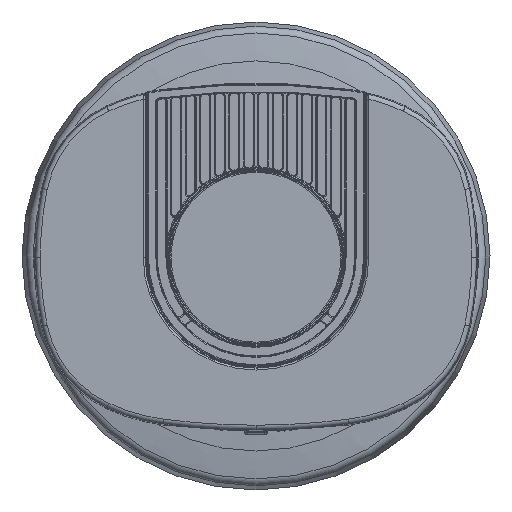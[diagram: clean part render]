
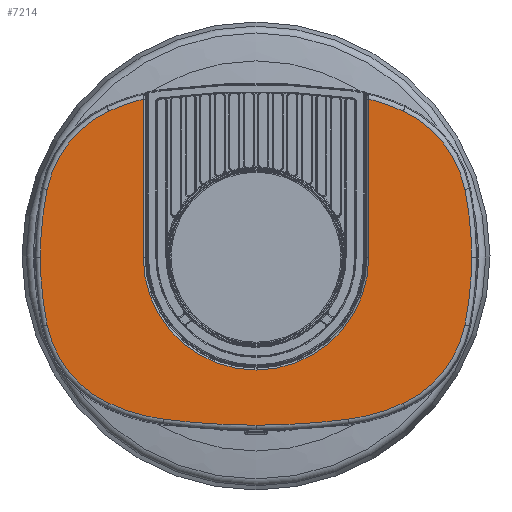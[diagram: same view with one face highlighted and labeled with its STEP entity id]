
A CAD part, top view. The second image highlights one B-rep face of the part: STEP entity #7214.
In plain terms, the highlighted planar face has unit normal (0, 0, 1).
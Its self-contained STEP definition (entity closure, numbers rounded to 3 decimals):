
#7214 = ADVANCED_FACE( '', ( #15056 ), #15057, .F. );
#15056 = FACE_OUTER_BOUND( '', #65342, .T. );
#15057 = PLANE( '', #65343 );
#65342 = EDGE_LOOP( '', ( #95937, #95938, #95939, #95940, #95941, #95942, #95943, #95944, #95945, #95946, #95947, #95948, #95949, #95950, #95951, #95952, #95953 ) );
#65343 = AXIS2_PLACEMENT_3D( '', #95954, #95955, #95956 );
#95937 = ORIENTED_EDGE( '', *, *, #108738, .F. );
#95938 = ORIENTED_EDGE( '', *, *, #104151, .F. );
#95939 = ORIENTED_EDGE( '', *, *, #108340, .F. );
#95940 = ORIENTED_EDGE( '', *, *, #108739, .F. );
#95941 = ORIENTED_EDGE( '', *, *, #108233, .T. );
#95942 = ORIENTED_EDGE( '', *, *, #108740, .T. );
#95943 = ORIENTED_EDGE( '', *, *, #102832, .T. );
#95944 = ORIENTED_EDGE( '', *, *, #108741, .T. );
#95945 = ORIENTED_EDGE( '', *, *, #103394, .T. );
#95946 = ORIENTED_EDGE( '', *, *, #107168, .T. );
#95947 = ORIENTED_EDGE( '', *, *, #103606, .T. );
#95948 = ORIENTED_EDGE( '', *, *, #104728, .T. );
#95949 = ORIENTED_EDGE( '', *, *, #104305, .T. );
#95950 = ORIENTED_EDGE( '', *, *, #104036, .F. );
#95951 = ORIENTED_EDGE( '', *, *, #108742, .F. );
#95952 = ORIENTED_EDGE( '', *, *, #103102, .F. );
#95953 = ORIENTED_EDGE( '', *, *, #108429, .F. );
#95954 = CARTESIAN_POINT( '', ( 0., -850., 915.5 ) );
#95955 = DIRECTION( '', ( 0., 0., -1. ) );
#95956 = DIRECTION( '', ( -1., 0., 0. ) );
#102832 = EDGE_CURVE( '', #111213, #111211, #111214, .F. );
#103102 = EDGE_CURVE( '', #111673, #111674, #111675, .F. );
#103394 = EDGE_CURVE( '', #112167, #112165, #112168, .F. );
#103606 = EDGE_CURVE( '', #112530, #112528, #112531, .F. );
#104036 = EDGE_CURVE( '', #110305, #113235, #113236, .T. );
#104151 = EDGE_CURVE( '', #113422, #113424, #113425, .F. );
#104305 = EDGE_CURVE( '', #113660, #113235, #113661, .T. );
#104728 = EDGE_CURVE( '', #112528, #113660, #114310, .T. );
#107168 = EDGE_CURVE( '', #112165, #112530, #117829, .F. );
#108233 = EDGE_CURVE( '', #119137, #119139, #119141, .F. );
#108340 = EDGE_CURVE( '', #119262, #113422, #119264, .F. );
#108429 = EDGE_CURVE( '', #119366, #111673, #119367, .F. );
#108738 = EDGE_CURVE( '', #113424, #119366, #119720, .F. );
#108739 = EDGE_CURVE( '', #119137, #119262, #119721, .F. );
#108740 = EDGE_CURVE( '', #119139, #111213, #119722, .F. );
#108741 = EDGE_CURVE( '', #111211, #112167, #119723, .F. );
#108742 = EDGE_CURVE( '', #111674, #110305, #119724, .F. );
#110305 = VERTEX_POINT( '', #122982 );
#111211 = VERTEX_POINT( '', #125752 );
#111213 = VERTEX_POINT( '', #125754 );
#111214 = CIRCLE( '', #125755, 115.815 );
#111673 = VERTEX_POINT( '', #127246 );
#111674 = VERTEX_POINT( '', #127247 );
#111675 = CIRCLE( '', #127248, 115.815 );
#112165 = VERTEX_POINT( '', #129337 );
#112167 = VERTEX_POINT( '', #129339 );
#112168 = CIRCLE( '', #129340, 355.815 );
#112528 = VERTEX_POINT( '', #130636 );
#112530 = VERTEX_POINT( '', #130687 );
#112531 = CIRCLE( '', #130688, 195.815 );
#113235 = VERTEX_POINT( '', #133116 );
#113236 = LINE( '', #133117, #133118 );
#113422 = VERTEX_POINT( '', #133930 );
#113424 = VERTEX_POINT( '', #133932 );
#113425 = CIRCLE( '', #133933, 115.815 );
#113660 = VERTEX_POINT( '', #135026 );
#113661 = CIRCLE( '', #135027, 118.068 );
#114310 = LINE( '', #137475, #137476 );
#117829 = CIRCLE( '', #153299, 115.815 );
#119137 = VERTEX_POINT( '', #158749 );
#119139 = VERTEX_POINT( '', #158768 );
#119141 = CIRCLE( '', #158770, 745.815 );
#119262 = VERTEX_POINT( '', #159250 );
#119264 = CIRCLE( '', #159252, 195.815 );
#119366 = VERTEX_POINT( '', #159716 );
#119367 = CIRCLE( '', #159717, 355.815 );
#119720 = CIRCLE( '', #161053, 355.815 );
#119721 = CIRCLE( '', #161054, 745.815 );
#119722 = CIRCLE( '', #161055, 195.815 );
#119723 = CIRCLE( '', #161056, 355.815 );
#119724 = CIRCLE( '', #161057, 195.815 );
#122982 = CARTESIAN_POINT( '', ( -118.068, -114.475, 915.5 ) );
#125752 = CARTESIAN_POINT( '', ( 218.661, -350.994, 915.5 ) );
#125754 = CARTESIAN_POINT( '', ( 153.986, -432.913, 915.5 ) );
#125755 = AXIS2_PLACEMENT_3D( '', #165838, #165839, #165840 );
#127246 = CARTESIAN_POINT( '', ( -218.661, -209.006, 915.5 ) );
#127247 = CARTESIAN_POINT( '', ( -153.986, -127.087, 915.5 ) );
#127248 = AXIS2_PLACEMENT_3D( '', #166065, #166066, #166067 );
#129337 = CARTESIAN_POINT( '', ( 218.661, -209.006, 915.5 ) );
#129339 = CARTESIAN_POINT( '', ( 225.815, -280., 915.5 ) );
#129340 = AXIS2_PLACEMENT_3D( '', #166308, #166309, #166310 );
#130636 = CARTESIAN_POINT( '', ( 118.068, -114.475, 915.5 ) );
#130687 = CARTESIAN_POINT( '', ( 153.986, -127.087, 915.5 ) );
#130688 = AXIS2_PLACEMENT_3D( '', #166506, #166507, #166508 );
#133116 = CARTESIAN_POINT( '', ( -118.068, -280., 915.5 ) );
#133117 = CARTESIAN_POINT( '', ( -118.068, -850., 915.5 ) );
#133118 = VECTOR( '', #166862, 1000. );
#133930 = CARTESIAN_POINT( '', ( -153.986, -432.913, 915.5 ) );
#133932 = CARTESIAN_POINT( '', ( -218.661, -350.994, 915.5 ) );
#133933 = AXIS2_PLACEMENT_3D( '', #166963, #166964, #166965 );
#135026 = CARTESIAN_POINT( '', ( 118.068, -280., 915.5 ) );
#135027 = AXIS2_PLACEMENT_3D( '', #167069, #167070, #167071 );
#137475 = CARTESIAN_POINT( '', ( 118.068, -850., 915.5 ) );
#137476 = VECTOR( '', #167383, 1000. );
#153299 = AXIS2_PLACEMENT_3D( '', #169184, #169185, #169186 );
#158749 = CARTESIAN_POINT( '', ( 0., -455.815, 915.5 ) );
#158768 = CARTESIAN_POINT( '', ( 96.898, -449.494, 915.5 ) );
#158770 = AXIS2_PLACEMENT_3D( '', #169918, #169919, #169920 );
#159250 = CARTESIAN_POINT( '', ( -96.898, -449.494, 915.5 ) );
#159252 = AXIS2_PLACEMENT_3D( '', #169973, #169974, #169975 );
#159716 = CARTESIAN_POINT( '', ( -225.815, -280., 915.5 ) );
#159717 = AXIS2_PLACEMENT_3D( '', #170020, #170021, #170022 );
#161053 = AXIS2_PLACEMENT_3D( '', #170183, #170184, #170185 );
#161054 = AXIS2_PLACEMENT_3D( '', #170186, #170187, #170188 );
#161055 = AXIS2_PLACEMENT_3D( '', #170189, #170190, #170191 );
#161056 = AXIS2_PLACEMENT_3D( '', #170192, #170193, #170194 );
#161057 = AXIS2_PLACEMENT_3D( '', #170195, #170196, #170197 );
#165838 = CARTESIAN_POINT( '', ( 105.174, -327.886, 915.5 ) );
#165839 = DIRECTION( '', ( 0., 0., -1. ) );
#165840 = DIRECTION( '', ( -1., 0., 0. ) );
#166065 = CARTESIAN_POINT( '', ( -105.174, -232.114, 915.5 ) );
#166066 = DIRECTION( '', ( 0., 0., 1. ) );
#166067 = DIRECTION( '', ( 1., 0., 0. ) );
#166308 = CARTESIAN_POINT( '', ( -130., -280., 915.5 ) );
#166309 = DIRECTION( '', ( 0., 0., -1. ) );
#166310 = DIRECTION( '', ( -1., 0., 0. ) );
#166506 = CARTESIAN_POINT( '', ( 71.457, -304.662, 915.5 ) );
#166507 = DIRECTION( '', ( 0., 0., -1. ) );
#166508 = DIRECTION( '', ( -1., 0., 0. ) );
#166862 = DIRECTION( '', ( 0., -1., 0. ) );
#166963 = CARTESIAN_POINT( '', ( -105.174, -327.886, 915.5 ) );
#166964 = DIRECTION( '', ( 0., 0., 1. ) );
#166965 = DIRECTION( '', ( 1., 0., 0. ) );
#167069 = CARTESIAN_POINT( '', ( 0., -280., 915.5 ) );
#167070 = DIRECTION( '', ( 0., 0., -1. ) );
#167071 = DIRECTION( '', ( -1., 0., 0. ) );
#167383 = DIRECTION( '', ( 0., -1., 0. ) );
#169184 = CARTESIAN_POINT( '', ( 105.174, -232.114, 915.5 ) );
#169185 = DIRECTION( '', ( 0., 0., -1. ) );
#169186 = DIRECTION( '', ( -1., 0., 0. ) );
#169918 = CARTESIAN_POINT( '', ( 0., 290., 915.5 ) );
#169919 = DIRECTION( '', ( 0., 0., -1. ) );
#169920 = DIRECTION( '', ( -1., 0., 0. ) );
#169973 = CARTESIAN_POINT( '', ( -71.457, -255.338, 915.5 ) );
#169974 = DIRECTION( '', ( 0., 0., 1. ) );
#169975 = DIRECTION( '', ( 1., 0., 0. ) );
#170020 = CARTESIAN_POINT( '', ( 130., -280., 915.5 ) );
#170021 = DIRECTION( '', ( 0., 0., 1. ) );
#170022 = DIRECTION( '', ( 1., 0., 0. ) );
#170183 = CARTESIAN_POINT( '', ( 130., -280., 915.5 ) );
#170184 = DIRECTION( '', ( 0., 0., 1. ) );
#170185 = DIRECTION( '', ( 1., 0., 0. ) );
#170186 = CARTESIAN_POINT( '', ( 0., 290., 915.5 ) );
#170187 = DIRECTION( '', ( 0., 0., 1. ) );
#170188 = DIRECTION( '', ( 1., 0., 0. ) );
#170189 = CARTESIAN_POINT( '', ( 71.457, -255.338, 915.5 ) );
#170190 = DIRECTION( '', ( 0., 0., -1. ) );
#170191 = DIRECTION( '', ( -1., 0., 0. ) );
#170192 = CARTESIAN_POINT( '', ( -130., -280., 915.5 ) );
#170193 = DIRECTION( '', ( 0., 0., -1. ) );
#170194 = DIRECTION( '', ( -1., 0., 0. ) );
#170195 = CARTESIAN_POINT( '', ( -71.457, -304.662, 915.5 ) );
#170196 = DIRECTION( '', ( 0., 0., 1. ) );
#170197 = DIRECTION( '', ( 1., 0., 0. ) );
